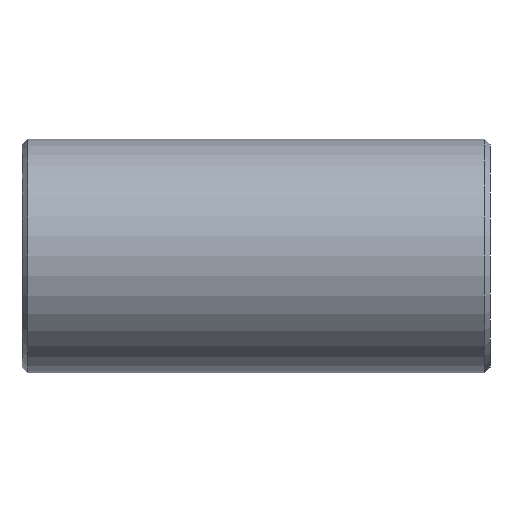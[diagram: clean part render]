
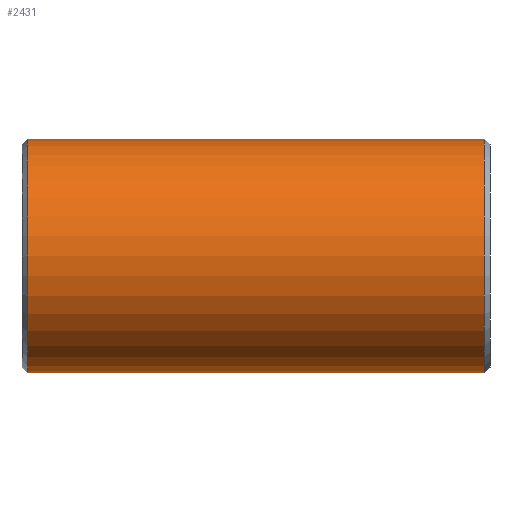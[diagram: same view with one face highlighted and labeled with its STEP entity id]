
A CAD part, front view. The second image highlights one B-rep face of the part: STEP entity #2431.
In plain terms, the highlighted cylindrical face has radius 10 mm (diameter 20 mm), a partial arc.
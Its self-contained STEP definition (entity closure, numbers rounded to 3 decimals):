
#1213=DIRECTION('',(1.,0.,0.));
#1214=VECTOR('',#1213,39.);
#1215=CARTESIAN_POINT('',(-19.5,0.,
-10.));
#1216=LINE('',#1215,#1214);
#1220=CARTESIAN_POINT('',(19.5,0.,0.));
#1221=DIRECTION('',(1.,0.,0.));
#1222=DIRECTION('',(0.,0.,1.));
#1223=AXIS2_PLACEMENT_3D('',#1220,#1221,#1222);
#1228=CARTESIAN_POINT('',(-19.5,0.,0.));
#1229=DIRECTION('',(-1.,0.,0.));
#1230=DIRECTION('',(0.,0.,-1.));
#1231=AXIS2_PLACEMENT_3D('',#1228,#1229,#1230);
#1236=DIRECTION('',(1.,0.,0.));
#1237=VECTOR('',#1236,39.);
#1238=CARTESIAN_POINT('',(-19.5,0.,
10.));
#1239=LINE('',#1238,#1237);
#1669=CARTESIAN_POINT('',(19.5,0.,10.));
#1670=CARTESIAN_POINT('',(19.5,0.,-10.));
#1671=VERTEX_POINT('',#1669);
#1672=VERTEX_POINT('',#1670);
#1677=CARTESIAN_POINT('',(-19.5,0.,-10.));
#1678=CARTESIAN_POINT('',(-19.5,0.,10.));
#1679=VERTEX_POINT('',#1677);
#1680=VERTEX_POINT('',#1678);
#2419=CARTESIAN_POINT('',(-20.,0.,0.));
#2420=DIRECTION('',(1.,0.,0.));
#2421=DIRECTION('',(0.,0.,-1.));
#2422=AXIS2_PLACEMENT_3D('',#2419,#2420,#2421);
#2423=CYLINDRICAL_SURFACE('',#2422,10.);
#2424=ORIENTED_EDGE('',*,*,#2384,.T.);
#2425=ORIENTED_EDGE('',*,*,#2414,.F.);
#2427=ORIENTED_EDGE('',*,*,#2426,.T.);
#2428=ORIENTED_EDGE('',*,*,#2410,.T.);
#2429=EDGE_LOOP('',(#2424,#2425,#2427,#2428));
#2430=FACE_OUTER_BOUND('',#2429,.F.);
#2431=ADVANCED_FACE('',(#2430),#2423,.T.);
#1224=CIRCLE('',#1223,10.);
#1232=CIRCLE('',#1231,10.);
#2384=EDGE_CURVE('',#1671,#1672,#1224,.T.);
#2410=EDGE_CURVE('',#1680,#1671,#1239,.T.);
#2414=EDGE_CURVE('',#1679,#1672,#1216,.T.);
#2426=EDGE_CURVE('',#1679,#1680,#1232,.T.);
